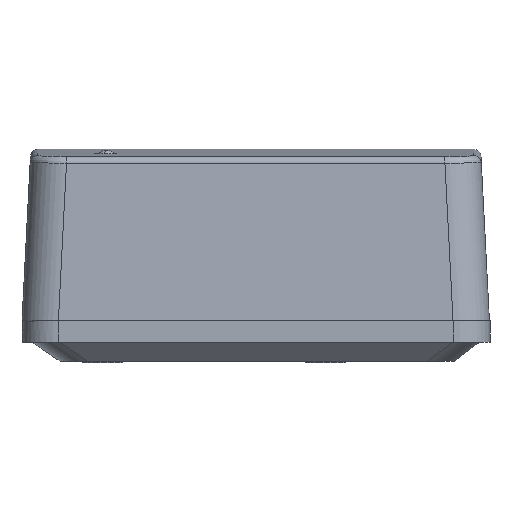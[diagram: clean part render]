
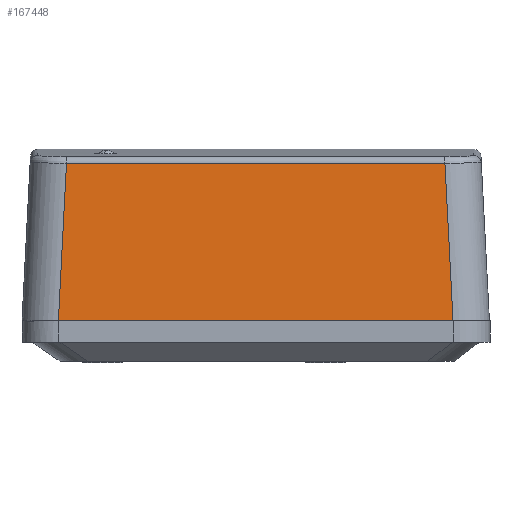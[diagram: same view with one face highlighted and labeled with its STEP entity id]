
A CAD part, left-side view. The second image highlights one B-rep face of the part: STEP entity #167448.
In plain terms, the highlighted planar face has unit normal (-0.999, 0, 0.054).
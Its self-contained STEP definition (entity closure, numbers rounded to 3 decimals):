
#58552 = PLANE('',#58553);
#58553 = AXIS2_PLACEMENT_3D('',#58554,#58555,#58556);
#58554 = CARTESIAN_POINT('',(0.,0.,0.6));
#58555 = DIRECTION('',(0.,0.,1.));
#58556 = DIRECTION('',(1.,0.,0.));
#122815 = VERTEX_POINT('',#122816);
#122816 = CARTESIAN_POINT('',(0.086,5.075,0.6));
#122831 = CYLINDRICAL_SURFACE('',#122832,5.);
#122832 = AXIS2_PLACEMENT_3D('',#122833,#122834,#122835);
#122833 = CARTESIAN_POINT('',(5.065,5.061,
    0.067));
#122834 = DIRECTION('',(0.054,0.051,
    0.997));
#122835 = DIRECTION('',(-0.999,0.,
    0.054));
#122849 = EDGE_CURVE('',#122850,#122815,#122852,.T.);
#122850 = VERTEX_POINT('',#122851);
#122851 = CARTESIAN_POINT('',(0.086,59.225,0.6));
#122852 = SURFACE_CURVE('',#122853,(#122857,#122863),.PCURVE_S1.);
#122853 = LINE('',#122854,#122855);
#122854 = CARTESIAN_POINT('',(0.086,0.,0.6));
#122855 = VECTOR('',#122856,1.);
#122856 = DIRECTION('',(0.,-1.,0.));
#122857 = PCURVE('',#58552,#122858);
#122858 = DEFINITIONAL_REPRESENTATION('',(#122859),#122862);
#122859 = B_SPLINE_CURVE_WITH_KNOTS('',1,(#122860,#122861),
  .UNSPECIFIED.,.F.,.F.,(2,2),(-64.671,0.371),
  .PIECEWISE_BEZIER_KNOTS.);
#122860 = CARTESIAN_POINT('',(0.086,64.671));
#122861 = CARTESIAN_POINT('',(0.086,-0.371));
#122862 = ( GEOMETRIC_REPRESENTATION_CONTEXT(2) 
PARAMETRIC_REPRESENTATION_CONTEXT() REPRESENTATION_CONTEXT('2D SPACE',''
  ) );
#122863 = PCURVE('',#122864,#122869);
#122864 = PLANE('',#122865);
#122865 = AXIS2_PLACEMENT_3D('',#122866,#122867,#122868);
#122866 = CARTESIAN_POINT('',(1.3,0.,23.1));
#122867 = DIRECTION('',(-0.999,0.,0.054));
#122868 = DIRECTION('',(-0.054,0.,-0.999));
#122869 = DEFINITIONAL_REPRESENTATION('',(#122870),#122873);
#122870 = B_SPLINE_CURVE_WITH_KNOTS('',1,(#122871,#122872),
  .UNSPECIFIED.,.F.,.F.,(2,2),(-64.671,0.371),
  .PIECEWISE_BEZIER_KNOTS.);
#122871 = CARTESIAN_POINT('',(22.533,-64.671));
#122872 = CARTESIAN_POINT('',(22.533,0.371));
#122873 = ( GEOMETRIC_REPRESENTATION_CONTEXT(2) 
PARAMETRIC_REPRESENTATION_CONTEXT() REPRESENTATION_CONTEXT('2D SPACE',''
  ) );
#122892 = CYLINDRICAL_SURFACE('',#122893,5.);
#122893 = AXIS2_PLACEMENT_3D('',#122894,#122895,#122896);
#122894 = CARTESIAN_POINT('',(5.065,59.239,
    0.067));
#122895 = DIRECTION('',(0.054,-0.051,
    0.997));
#122896 = DIRECTION('',(-0.999,0.,
    0.054));
#166501 = CYLINDRICAL_SURFACE('',#166502,1.);
#166502 = AXIS2_PLACEMENT_3D('',#166503,#166504,#166505);
#166503 = CARTESIAN_POINT('',(2.249,58.069,
    22.125));
#166504 = DIRECTION('',(0.,-1.,0.));
#166505 = DIRECTION('',(-0.999,0.,
    0.054));
#167304 = EDGE_CURVE('',#122850,#167305,#167307,.T.);
#167305 = VERTEX_POINT('',#167306);
#167306 = CARTESIAN_POINT('',(1.25,58.116,
    22.179));
#167307 = SURFACE_CURVE('',#167308,(#167312,#167319),.PCURVE_S1.);
#167308 = LINE('',#167309,#167310);
#167309 = CARTESIAN_POINT('',(0.072,59.239,
    0.337));
#167310 = VECTOR('',#167311,1.);
#167311 = DIRECTION('',(0.054,-0.051,
    0.997));
#167312 = PCURVE('',#122892,#167313);
#167313 = DEFINITIONAL_REPRESENTATION('',(#167314),#167318);
#167314 = LINE('',#167315,#167316);
#167315 = CARTESIAN_POINT('',(-0.,0.));
#167316 = VECTOR('',#167317,1.);
#167317 = DIRECTION('',(-0.,1.));
#167318 = ( GEOMETRIC_REPRESENTATION_CONTEXT(2) 
PARAMETRIC_REPRESENTATION_CONTEXT() REPRESENTATION_CONTEXT('2D SPACE',''
  ) );
#167319 = PCURVE('',#122864,#167320);
#167320 = DEFINITIONAL_REPRESENTATION('',(#167321),#167325);
#167321 = LINE('',#167322,#167323);
#167322 = CARTESIAN_POINT('',(22.796,-59.239));
#167323 = VECTOR('',#167324,1.);
#167324 = DIRECTION('',(-0.999,0.051));
#167325 = ( GEOMETRIC_REPRESENTATION_CONTEXT(2) 
PARAMETRIC_REPRESENTATION_CONTEXT() REPRESENTATION_CONTEXT('2D SPACE',''
  ) );
#167448 = ADVANCED_FACE('',(#167449),#122864,.T.);
#167449 = FACE_BOUND('',#167450,.T.);
#167450 = EDGE_LOOP('',(#167451,#167452,#167475,#167496));
#167451 = ORIENTED_EDGE('',*,*,#122849,.T.);
#167452 = ORIENTED_EDGE('',*,*,#167453,.T.);
#167453 = EDGE_CURVE('',#122815,#167454,#167456,.T.);
#167454 = VERTEX_POINT('',#167455);
#167455 = CARTESIAN_POINT('',(1.25,6.184,
    22.179));
#167456 = SURFACE_CURVE('',#167457,(#167461,#167468),.PCURVE_S1.);
#167457 = LINE('',#167458,#167459);
#167458 = CARTESIAN_POINT('',(0.072,5.061,
    0.337));
#167459 = VECTOR('',#167460,1.);
#167460 = DIRECTION('',(0.054,0.051,
    0.997));
#167461 = PCURVE('',#122864,#167462);
#167462 = DEFINITIONAL_REPRESENTATION('',(#167463),#167467);
#167463 = LINE('',#167464,#167465);
#167464 = CARTESIAN_POINT('',(22.796,-5.061));
#167465 = VECTOR('',#167466,1.);
#167466 = DIRECTION('',(-0.999,-0.051));
#167467 = ( GEOMETRIC_REPRESENTATION_CONTEXT(2) 
PARAMETRIC_REPRESENTATION_CONTEXT() REPRESENTATION_CONTEXT('2D SPACE',''
  ) );
#167468 = PCURVE('',#122831,#167469);
#167469 = DEFINITIONAL_REPRESENTATION('',(#167470),#167474);
#167470 = LINE('',#167471,#167472);
#167471 = CARTESIAN_POINT('',(0.,0.));
#167472 = VECTOR('',#167473,1.);
#167473 = DIRECTION('',(0.,1.));
#167474 = ( GEOMETRIC_REPRESENTATION_CONTEXT(2) 
PARAMETRIC_REPRESENTATION_CONTEXT() REPRESENTATION_CONTEXT('2D SPACE',''
  ) );
#167475 = ORIENTED_EDGE('',*,*,#167476,.F.);
#167476 = EDGE_CURVE('',#167305,#167454,#167477,.T.);
#167477 = SURFACE_CURVE('',#167478,(#167482,#167489),.PCURVE_S1.);
#167478 = LINE('',#167479,#167480);
#167479 = CARTESIAN_POINT('',(1.25,58.069,
    22.179));
#167480 = VECTOR('',#167481,1.);
#167481 = DIRECTION('',(0.,-1.,0.));
#167482 = PCURVE('',#122864,#167483);
#167483 = DEFINITIONAL_REPRESENTATION('',(#167484),#167488);
#167484 = LINE('',#167485,#167486);
#167485 = CARTESIAN_POINT('',(0.923,-58.069));
#167486 = VECTOR('',#167487,1.);
#167487 = DIRECTION('',(0.,1.));
#167488 = ( GEOMETRIC_REPRESENTATION_CONTEXT(2) 
PARAMETRIC_REPRESENTATION_CONTEXT() REPRESENTATION_CONTEXT('2D SPACE',''
  ) );
#167489 = PCURVE('',#166501,#167490);
#167490 = DEFINITIONAL_REPRESENTATION('',(#167491),#167495);
#167491 = LINE('',#167492,#167493);
#167492 = CARTESIAN_POINT('',(-0.,0.));
#167493 = VECTOR('',#167494,1.);
#167494 = DIRECTION('',(-0.,1.));
#167495 = ( GEOMETRIC_REPRESENTATION_CONTEXT(2) 
PARAMETRIC_REPRESENTATION_CONTEXT() REPRESENTATION_CONTEXT('2D SPACE',''
  ) );
#167496 = ORIENTED_EDGE('',*,*,#167304,.F.);
